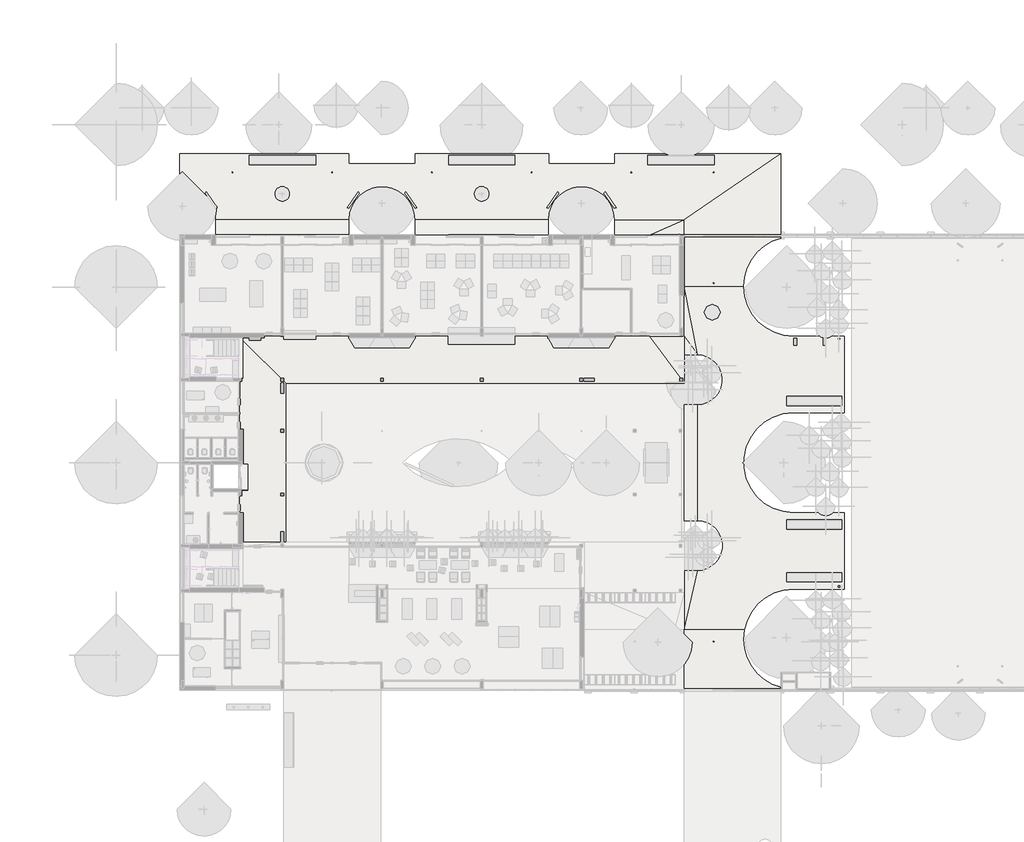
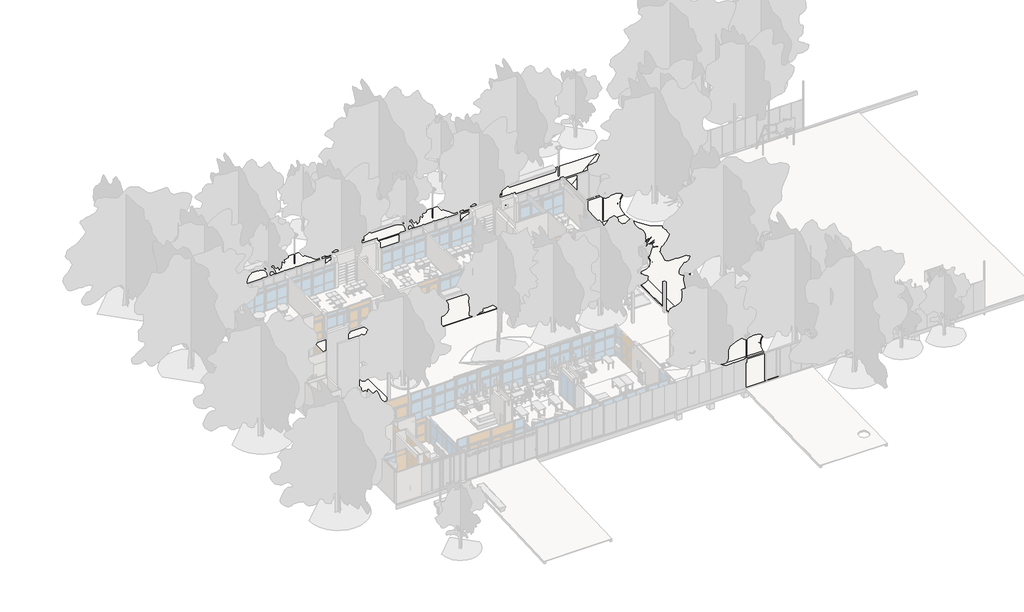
# One storey, part 9 of 22: 4 slabs.
"""IFC4 building model written with IfcOpenShell, lengths in millimetres."""

from ifc_helpers import new_model, si_unit, frame, origin, place, context, project, spatial, polyline, circle_curve, faceted_brep, element, save
from ifc_brep_helpers import plane_surface, revolved_surface, advanced_brep

model = new_model("IFC4")

# Units and contexts
model_context = context("Model", 3, world=origin())
ifc_project = project(units=[si_unit("LENGTHUNIT", "METRE", prefix="MILLI")], contexts=[model_context])

# Site, building, storey
site = spatial("IfcSite", under=ifc_project)
building = spatial("IfcBuilding", under=site)
storey = spatial("IfcBuildingStorey", under=building, Name="PLanta baja", Elevation=0.0)

# Slabs
placement = place(None, origin())
element("IfcSlab", 1, ObjectType="C33 MONOLITICA GRANITICA 30x30 8cm", at=placement, inside=storey, context=model_context, shape_type="Brep", body=[
    faceted_brep([(37998.7173693, 24720.2304035, -80.0), (37998.7173693, 21470.2304035, -80.0), (10438.7173694, 21470.2304035, -80.0), (10438.7173694, 10470.2304035, -80.0), (7478.7173693, 10470.2304035, -80.0), (7478.7173693, 12520.2304035, -80.0), (7478.7173693, 12520.5073266, -80.0), (7168.7173693, 12520.5073266, -80.0), (7168.7173693, 14070.968865, -80.0), (7788.7173694, 14070.968865, -80.0), (7788.7173694, 15870.5073266, -80.0), (7478.7173694, 15870.5073266, -80.0), (7478.7173694, 18273.6271979, -80.0), (7168.7173693, 18273.6271979, -80.0), (7168.7173693, 21820.5073266, -80.0), (7468.7173693, 21820.5073266, -80.0), (7468.7173693, 24610.9158341, -80.0), (8938.7173694, 24610.9158341, -80.0), (8938.7173694, 24720.2304035, -80.0), (14788.7173694, 24720.2304035, -80.0), (14788.7173694, 24610.9594565, -80.0), (19388.7173694, 24610.9594565, -80.0), (19388.7173694, 24720.2304035, -80.0), (28588.7173694, 24720.2304035, -80.0), (28588.7173694, 24610.968865, -80.0), (33188.7173693, 24610.968865, -80.0), (33188.7173693, 24720.2304035, -80.0), (8938.7173694, 24720.2304035, 0.0), (14788.7173694, 24720.2304035, 0.0), (37998.7173693, 24720.2304035, -30.0), (37998.7173693, 21470.2304035, -30.0), (10438.7173694, 21470.2304035, -30.0), (10438.7173694, 10470.2304035, -30.0), (7478.7173693, 10470.2304035, -2.8440367), (7168.7173693, 18272.8887364, 0.0), (7168.7173693, 21819.768865, 0.0), (7168.7173693, 12520.2304035, -50.0), (7168.7173693, 12519.9522511, -19.866824), (7168.7173693, 12519.768865, 0.0), (7168.7173693, 12520.2304035, 0.0), (7168.7173693, 13670.2304035, 0.0), (7168.7173693, 13970.2304035, 0.0), (7168.7173693, 14070.2304035, 0.0), (19388.7173694, 24720.2304035, 0.0), (28588.7173694, 24720.2304035, 0.0), (33188.7173693, 24720.2304035, 0.0), (35593.7173693, 24720.2304035, 0.0), (7468.7173693, 24422.0652659, -2.7522936), (7468.7173693, 21819.7942708, -2.7522936), (7478.7173694, 18272.914989, -2.8440367), (7478.7173694, 15869.7951177, -2.8440367), (7788.7173694, 15869.8213703, -5.6880734), (7788.7173694, 14070.2829088, -5.6880734), (7478.7173693, 12519.7951177, -2.8440367), (33188.7173693, 24610.2397755, -1.0152981), (28588.7173694, 24610.2397755, -1.0152981), (19388.7173694, 24610.2303678, -1.0153849), (14788.7173694, 24610.2303678, -1.0153849), (8938.7173694, 24610.1867491, -1.0157876), (7468.7173693, 24610.1867491, -1.0157876), (19388.7173694, 24610.6825335, -50.0), (14788.7173694, 24610.6825335, -50.0), (7478.7173693, 12520.2304035, -50.0)], [[[0, 1, 2, 3, 4, 5, 6, 7, 8, 9, 10, 11, 12, 13, 14, 15, 16, 17, 18, 19, 20, 21, 22, 23, 24, 25, 26]], [[19, 18, 27, 28]], [[1, 0, 29, 30]], [[2, 1, 30, 31]], [[3, 2, 31, 32]], [[3, 32, 33, 4]], [[14, 13, 34, 35]], [[8, 7, 36, 37, 38, 39, 40, 41, 42]], [[23, 22, 43, 44]], [[0, 26, 45, 46, 29]], [[32, 31, 47, 48, 35, 34, 49, 50, 51, 52, 42, 41, 40, 39, 38, 53, 33]], [[31, 30, 46, 45, 54, 55, 44, 43, 56, 57, 28, 27, 58, 59, 47]], [[30, 29, 46]], [[25, 54, 45, 26]], [[55, 24, 23, 44]], [[54, 25, 24, 55]], [[21, 60, 56, 43, 22]], [[57, 61, 20, 19, 28]], [[56, 60, 21, 20, 61, 57]], [[16, 59, 58, 17]], [[17, 58, 27, 18]], [[48, 15, 14, 35]], [[59, 16, 15, 48, 47]], [[12, 49, 34, 13]], [[52, 9, 8, 42]], [[9, 52, 51, 10]], [[10, 51, 50, 11]], [[49, 12, 11, 50]], [[6, 62, 53, 38, 37, 36, 7]], [[53, 62, 6, 5, 4, 33]]]),
])
element("IfcSlab", 2, ObjectType="Sub base y descalce fundaciones 35cm", at=placement, inside=storey, context=model_context, shape_type="Brep", body=[
    faceted_brep([(10288.7173694, 24720.2304035, -540.0), (16988.7173694, 24720.2304035, -540.0), (16988.7173694, 21820.2304035, -540.0), (10288.7173694, 21820.2304035, -540.0), (16988.7173694, 21820.2304035, -190.0), (16988.7173694, 24720.2304035, -190.0), (13713.7173693, 24720.2304035, -190.0), (13713.7173693, 21820.2304035, -190.0), (10288.7173694, 24720.2304035, -190.0), (10288.7173694, 21820.2304035, -190.0), (13563.7173693, 21820.2304035, -190.0), (13563.7173693, 24720.2304035, -190.0), (13563.7173693, 24720.2304035, -440.0), (13713.7173693, 24720.2304035, -440.0), (13713.7173693, 21820.2304035, -440.0), (13563.7173693, 21820.2304035, -440.0)], [[[0, 1, 2, 3]], [[4, 5, 6, 7]], [[8, 9, 10, 11]], [[1, 0, 8, 11, 12, 13, 6, 5]], [[2, 1, 5, 4]], [[3, 2, 4, 7, 14, 15, 10, 9]], [[0, 3, 9, 8]], [[11, 10, 15, 12]], [[13, 12, 15, 14]], [[7, 6, 13, 14]]]),
    faceted_brep([(30988.7173693, 21820.2304035, -540.0), (30988.7173693, 24720.2304035, -540.0), (37688.7173693, 24720.2304035, -540.0), (37688.7173693, 21820.2304035, -540.0), (30988.7173693, 24720.2304035, -190.0), (30988.7173693, 21820.2304035, -190.0), (34263.7173693, 21820.2304035, -190.0), (34263.7173693, 24720.2304035, -190.0), (37688.7173693, 21820.2304035, -190.0), (37688.7173693, 24720.2304035, -190.0), (34413.7173693, 24720.2304035, -190.0), (34413.7173693, 21820.2304035, -190.0), (34263.7173693, 24720.2304035, -440.0), (34413.7173693, 24720.2304035, -440.0), (34413.7173693, 21820.2304035, -440.0), (34263.7173693, 21820.2304035, -440.0)], [[[0, 1, 2, 3]], [[4, 5, 6, 7]], [[8, 9, 10, 11]], [[1, 0, 5, 4]], [[2, 1, 4, 7, 12, 13, 10, 9]], [[3, 2, 9, 8]], [[0, 3, 8, 11, 14, 15, 6, 5]], [[15, 12, 7, 6]], [[12, 15, 14, 13]], [[13, 14, 11, 10]]]),
    faceted_brep([(24088.7173694, 21820.2304035, -540.0), (24088.7173694, 24720.2304035, -540.0), (30788.7173693, 24720.2304035, -540.0), (30788.7173693, 21820.2304035, -540.0), (24088.7173694, 24720.2304035, -190.0), (24088.7173694, 21820.2304035, -190.0), (27363.7173693, 21820.2304035, -190.0), (27363.7173693, 24720.2304035, -190.0), (30788.7173693, 21820.2304035, -190.0), (30788.7173693, 24720.2304035, -190.0), (27513.7173693, 24720.2304035, -190.0), (27513.7173693, 21820.2304035, -190.0), (27363.7173693, 24720.2304035, -440.0), (27513.7173693, 24720.2304035, -440.0), (27513.7173693, 21820.2304035, -440.0), (27363.7173693, 21820.2304035, -440.0)], [[[0, 1, 2, 3]], [[4, 5, 6, 7]], [[8, 9, 10, 11]], [[1, 0, 5, 4]], [[2, 1, 4, 7, 12, 13, 10, 9]], [[3, 2, 9, 8]], [[0, 3, 8, 11, 14, 15, 6, 5]], [[7, 6, 15, 12]], [[13, 12, 15, 14]], [[11, 10, 13, 14]]]),
    faceted_brep([(17188.7173694, 21820.2304035, -540.0), (17188.7173694, 24720.2304035, -540.0), (23888.7173694, 24720.2304035, -540.0), (23888.7173694, 21820.2304035, -540.0), (17188.7173694, 24720.2304035, -190.0), (17188.7173694, 21820.2304035, -190.0), (20463.7173694, 21820.2304035, -190.0), (20463.7173694, 24720.2304035, -190.0), (23888.7173694, 21820.2304035, -190.0), (23888.7173694, 24720.2304035, -190.0), (20613.7173694, 24720.2304035, -190.0), (20613.7173694, 21820.2304035, -190.0), (20463.7173694, 24720.2304035, -440.0), (20613.7173694, 24720.2304035, -440.0), (20613.7173694, 21820.2304035, -440.0), (20463.7173694, 21820.2304035, -440.0)], [[[0, 1, 2, 3]], [[4, 5, 6, 7]], [[8, 9, 10, 11]], [[1, 0, 5, 4]], [[2, 1, 4, 7, 12, 13, 10, 9]], [[3, 2, 9, 8]], [[0, 3, 8, 11, 14, 15, 6, 5]], [[7, 6, 15, 12]], [[13, 12, 15, 14]], [[11, 10, 13, 14]]]),
    faceted_brep([(7368.7173693, 21820.2304035, -540.0), (7368.7173693, 24720.2304035, -540.0), (10088.7173694, 24720.2304035, -540.0), (10088.7173694, 21820.2304035, -540.0), (7368.7173693, 24720.2304035, -190.0), (7368.7173693, 21820.2304035, -190.0), (10088.7173694, 21820.2304035, -190.0), (10088.7173694, 24720.2304035, -190.0), (7368.7173693, 21820.2304035, -440.0), (10088.7173694, 21820.2304035, -440.0)], [[[0, 1, 2, 3]], [[4, 5, 6, 7]], [[1, 0, 8, 5, 4]], [[2, 1, 4, 7]], [[3, 2, 7, 6, 9]], [[0, 3, 9, 6, 5, 8]]]),
    faceted_brep([(7368.7173694, 18270.2304035, -540.0), (7368.7173694, 21620.2304035, -540.0), (10088.7173694, 21620.2304035, -540.0), (10088.7173694, 18270.2304035, -540.0), (7368.7173694, 21620.2304035, -190.0), (7368.7173694, 18270.2304035, -190.0), (10088.7173694, 18270.2304035, -190.0), (10088.7173694, 21620.2304035, -190.0), (7368.7173694, 18270.2304035, -440.0), (7368.7173694, 21620.2304035, -440.0), (10088.7173694, 21620.2304035, -440.0), (10088.7173694, 18270.2304035, -440.0)], [[[0, 1, 2, 3]], [[4, 5, 6, 7]], [[1, 0, 8, 5, 4, 9]], [[2, 1, 9, 4, 7, 10]], [[3, 2, 10, 7, 6, 11]], [[0, 3, 11, 6, 5, 8]]]),
    faceted_brep([(7368.7173693, 13870.2304035, -540.0), (7368.7173693, 13970.2304035, -540.0), (7368.7173693, 14170.2304035, -540.0), (7368.7173693, 15870.2304035, -540.0), (7368.7173693, 16020.2304035, -540.0), (7368.7173693, 18070.2304035, -540.0), (10088.7173694, 18070.2304035, -540.0), (10088.7173694, 13870.2304035, -540.0), (7368.7173693, 18070.2304035, -190.0), (7368.7173693, 13870.2304035, -190.0), (10088.7173694, 13870.2304035, -190.0), (10088.7173694, 18070.2304035, -190.0), (7368.7173693, 13870.2304035, -440.0), (7368.7173693, 18070.2304035, -440.0), (10088.7173694, 18070.2304035, -440.0), (10088.7173694, 13870.2304035, -440.0)], [[[0, 1, 2, 3, 4, 5, 6, 7]], [[8, 9, 10, 11]], [[5, 4, 3, 2, 1, 0, 12, 9, 8, 13]], [[6, 5, 13, 8, 11, 14]], [[7, 6, 14, 11, 10, 15]], [[0, 7, 15, 10, 9, 12]]]),
    faceted_brep([(7368.7173693, 10320.2304035, -540.0), (7368.7173693, 13670.2304035, -540.0), (10088.7173694, 13670.2304035, -540.0), (10088.7173694, 10320.2304035, -540.0), (7368.7173693, 13670.2304035, -190.0), (7368.7173693, 10320.2304035, -190.0), (10088.7173694, 10320.2304035, -190.0), (10088.7173694, 13670.2304035, -190.0), (7368.7173693, 10320.2304035, -410.0), (7368.7173693, 13670.2304035, -440.0), (10088.7173694, 13670.2304035, -440.0), (10088.7173694, 10320.2304035, -410.0)], [[[0, 1, 2, 3]], [[4, 5, 6, 7]], [[1, 0, 8, 5, 4, 9]], [[2, 1, 9, 4, 7, 10]], [[3, 2, 10, 7, 6, 11]], [[0, 3, 11, 6, 5, 8]]]),
    faceted_brep([(37888.7173693, 21620.2241535, -540.0), (37888.7173693, 24720.3804035, -540.0), (37998.7173693, 24720.3804035, -540.0), (37998.7173693, 21470.2304035, -540.0), (10438.7173693, 21470.2304035, -540.0), (10438.7173693, 10320.2304035, -540.0), (10288.7173693, 10320.2304035, -540.0), (10288.7173693, 21620.2241535, -540.0), (37888.7173693, 24720.3804035, -190.0), (37888.7173693, 21620.2241535, -190.0), (34413.7173693, 21620.2241535, -190.0), (34263.7173693, 21620.2241535, -190.0), (27513.7173693, 21620.2241535, -190.0), (27363.7173693, 21620.2241535, -190.0), (20613.7173694, 21620.2241535, -190.0), (20463.7173694, 21620.2241535, -190.0), (13713.7173693, 21620.2241535, -190.0), (13563.7173693, 21620.2241535, -190.0), (10288.7173693, 21620.2241535, -190.0), (10288.7173693, 10320.2304035, -190.0), (10438.7173693, 10320.2304035, -190.0), (10438.7173693, 21470.2304035, -190.0), (37998.7173693, 21470.2304035, -190.0), (37998.7173693, 24720.3804035, -190.0), (10438.7173693, 10320.2304035, -510.0)], [[[0, 1, 2, 3, 4, 5, 6, 7]], [[8, 9, 10, 11, 12, 13, 14, 15, 16, 17, 18, 19, 20, 21, 22, 23]], [[1, 0, 9, 8]], [[2, 1, 8, 23]], [[3, 2, 23, 22]], [[4, 3, 22, 21]], [[5, 4, 21, 20, 24]], [[7, 6, 19, 18]], [[0, 7, 18, 17, 16, 15, 14, 13, 12, 11, 10, 9]], [[6, 5, 24, 20, 19]]]),
])
element("IfcSlab", 3, ObjectType="LOSA-INT-HA-11cm-PET", at=placement, inside=storey, context=model_context, shape_type="Brep", body=[
    faceted_brep([(10088.7173694, 24720.2304035, -190.0), (10088.7173694, 21820.2304035, -190.0), (7368.7173693, 21820.2304035, -190.0), (7368.7173693, 24720.2304035, -190.0), (10088.7173694, 24720.2304035, -80.0), (8514.6864031, 24720.2304035, -80.0), (7907.6811618, 24720.2304035, -80.0), (7368.7173693, 24720.2304035, -80.0), (7368.7173693, 21820.2304035, -80.0), (10088.7173694, 21820.2304035, -80.0)], [[[0, 1, 2, 3]], [[4, 5, 6, 7, 8, 9]], [[1, 0, 4, 9]], [[2, 1, 9, 8]], [[3, 2, 8, 7]], [[0, 3, 7, 6, 5, 4]]]),
    faceted_brep([(10088.7173694, 21620.2304035, -190.0), (10088.7173694, 18270.2304035, -190.0), (7368.7173694, 18270.2304035, -190.0), (7368.7173694, 21620.2304035, -190.0), (10088.7173694, 21620.2304035, -80.0), (7368.7173694, 21620.2304035, -80.0), (7368.7173694, 19220.2304035, -80.0), (7368.7173694, 18270.2304035, -80.0), (10088.7173694, 18270.2304035, -80.0)], [[[0, 1, 2, 3]], [[4, 5, 6, 7, 8]], [[1, 0, 4, 8]], [[2, 1, 8, 7]], [[3, 2, 7, 6, 5]], [[0, 3, 5, 4]]]),
    faceted_brep([(10088.7173694, 18070.2304035, -190.0), (10088.7173694, 13870.2304035, -190.0), (7368.7173694, 13870.2304035, -190.0), (7368.7173694, 18070.2304035, -190.0), (10088.7173694, 18070.2304035, -80.0), (7368.7173694, 18070.2304035, -80.0), (7368.7173694, 16070.2304035, -80.0), (7368.7173694, 15870.2304035, -80.0), (7368.7173694, 14170.2304035, -80.0), (7368.7173694, 13970.2304035, -80.0), (7368.7173694, 13870.2304035, -80.0), (10088.7173694, 13870.2304035, -80.0)], [[[0, 1, 2, 3]], [[4, 5, 6, 7, 8, 9, 10, 11]], [[1, 0, 4, 11]], [[2, 1, 11, 10]], [[3, 2, 10, 9, 8, 7, 6, 5]], [[0, 3, 5, 4]]]),
    faceted_brep([(10088.7173694, 13670.2304035, -190.0), (10088.7173694, 10320.2304035, -190.0), (7368.7173694, 10320.2304035, -190.0), (7368.7173694, 13670.2304035, -190.0), (10088.7173694, 13670.2304035, -80.0), (7368.7173694, 13670.2304035, -80.0), (7368.7173694, 10320.2304035, -80.0), (10088.7173694, 10320.2304035, -80.0)], [[[0, 1, 2, 3]], [[4, 5, 6, 7]], [[1, 0, 4, 7]], [[2, 1, 7, 6]], [[3, 2, 6, 5]], [[0, 3, 5, 4]]]),
    faceted_brep([(13563.7173693, 24720.2304035, -190.0), (13563.7173693, 21820.2304035, -190.0), (10288.7173694, 21820.2304035, -190.0), (10288.7173694, 24720.2304035, -190.0), (13563.7173693, 24720.2304035, -80.0), (10288.7173694, 24720.2304035, -80.0), (10288.7173694, 21820.2304035, -80.0), (13563.7173693, 21820.2304035, -80.0)], [[[0, 1, 2, 3]], [[4, 5, 6, 7]], [[3, 2, 6, 5]], [[0, 3, 5, 4]], [[1, 0, 4, 7]], [[2, 1, 7, 6]]]),
    faceted_brep([(13713.7173693, 21820.2304035, -190.0), (13713.7173693, 24720.2304035, -190.0), (16988.7173694, 24720.2304035, -190.0), (16988.7173694, 21820.2304035, -190.0), (13713.7173693, 21820.2304035, -80.0), (16988.7173694, 21820.2304035, -80.0), (16988.7173694, 24720.2304035, -80.0), (14788.7173694, 24720.2304035, -80.0), (13713.7173693, 24720.2304035, -80.0)], [[[0, 1, 2, 3]], [[4, 5, 6, 7, 8]], [[3, 2, 6, 5]], [[0, 3, 5, 4]], [[1, 0, 4, 8]], [[2, 1, 8, 7, 6]]]),
    faceted_brep([(20463.7173694, 24720.2304035, -190.0), (20463.7173694, 21820.2304035, -190.0), (17188.7173694, 21820.2304035, -190.0), (17188.7173694, 24720.2304035, -190.0), (20463.7173694, 24720.2304035, -80.0), (19388.7173694, 24720.2304035, -80.0), (17188.7173694, 24720.2304035, -80.0), (17188.7173694, 21820.2304035, -80.0), (20463.7173694, 21820.2304035, -80.0)], [[[0, 1, 2, 3]], [[4, 5, 6, 7, 8]], [[3, 2, 7, 6]], [[0, 3, 6, 5, 4]], [[1, 0, 4, 8]], [[2, 1, 8, 7]]]),
    faceted_brep([(20613.7173694, 21820.2304035, -190.0), (20613.7173694, 24720.2304035, -190.0), (23888.7173694, 24720.2304035, -190.0), (23888.7173694, 21820.2304035, -190.0), (20613.7173694, 21820.2304035, -80.0), (23888.7173694, 21820.2304035, -80.0), (23888.7173694, 24720.2304035, -80.0), (20613.7173694, 24720.2304035, -80.0)], [[[0, 1, 2, 3]], [[4, 5, 6, 7]], [[3, 2, 6, 5]], [[0, 3, 5, 4]], [[1, 0, 4, 7]], [[2, 1, 7, 6]]]),
    faceted_brep([(27363.7173693, 24720.2304035, -190.0), (27363.7173693, 21820.2304035, -190.0), (24088.7173694, 21820.2304035, -190.0), (24088.7173694, 24720.2304035, -190.0), (27363.7173693, 24720.2304035, -80.0), (24088.7173694, 24720.2304035, -80.0), (24088.7173694, 21820.2304035, -80.0), (27363.7173693, 21820.2304035, -80.0)], [[[0, 1, 2, 3]], [[4, 5, 6, 7]], [[3, 2, 6, 5]], [[0, 3, 5, 4]], [[1, 0, 4, 7]], [[2, 1, 7, 6]]]),
    faceted_brep([(27513.7173693, 21820.2304035, -190.0), (27513.7173693, 24720.2304035, -190.0), (30788.7173693, 24720.2304035, -190.0), (30788.7173693, 21820.2304035, -190.0), (27513.7173693, 21820.2304035, -80.0), (30788.7173693, 21820.2304035, -80.0), (30788.7173693, 24720.2304035, -80.0), (28588.7173694, 24720.2304035, -80.0), (27513.7173693, 24720.2304035, -80.0)], [[[0, 1, 2, 3]], [[4, 5, 6, 7, 8]], [[3, 2, 6, 5]], [[0, 3, 5, 4]], [[1, 0, 4, 8]], [[2, 1, 8, 7, 6]]]),
    faceted_brep([(34263.7173693, 24720.2304035, -190.0), (34263.7173693, 21820.2304035, -190.0), (30988.7173693, 21820.2304035, -190.0), (30988.7173693, 24720.2304035, -190.0), (34263.7173693, 24720.2304035, -80.0), (33188.7173693, 24720.2304035, -80.0), (30988.7173693, 24720.2304035, -80.0), (30988.7173693, 21820.2304035, -80.0), (34263.7173693, 21820.2304035, -80.0)], [[[0, 1, 2, 3]], [[4, 5, 6, 7, 8]], [[3, 2, 7, 6]], [[0, 3, 6, 5, 4]], [[1, 0, 4, 8]], [[2, 1, 8, 7]]]),
    faceted_brep([(34413.7173693, 21820.2304035, -190.0), (34413.7173693, 24720.2304035, -190.0), (37688.7173693, 24720.2304035, -190.0), (37688.7173693, 21820.2304035, -190.0), (34413.7173693, 21820.2304035, -80.0), (37688.7173693, 21820.2304035, -80.0), (37688.7173693, 24720.2304035, -80.0), (34413.7173693, 24720.2304035, -80.0)], [[[0, 1, 2, 3]], [[4, 5, 6, 7]], [[3, 2, 6, 5]], [[0, 3, 5, 4]], [[1, 0, 4, 7]], [[2, 1, 7, 6]]]),
    faceted_brep([(37998.7173693, 24720.3804035, -190.0), (37998.7173693, 23585.2304035, -190.0), (37998.7173693, 21470.2304035, -190.0), (10438.7173693, 21470.2304035, -190.0), (10438.7173693, 10320.2304035, -190.0), (10288.7173693, 10320.2304035, -190.0), (10288.7173693, 21620.2304035, -190.0), (37888.7173693, 21620.2304035, -190.0), (37888.7173693, 23585.2304035, -190.0), (37888.7173693, 24720.3804035, -190.0), (37998.7173693, 24720.3804035, -80.0), (37888.7173693, 24720.3804035, -80.0), (37888.7173693, 21820.2304035, -80.0), (37888.7173693, 21620.2304035, -80.0), (10288.7173693, 21620.2304035, -80.0), (10288.7173693, 10320.2304035, -80.0), (10438.7173693, 10320.2304035, -80.0), (10438.7173693, 10429.8933561, -80.0), (10438.7173693, 10470.2304035, -80.0), (10438.7173693, 21470.2304035, -80.0), (37998.7173693, 21470.2304035, -80.0), (37998.7173693, 24720.3804035, -160.0), (37998.7173693, 21470.2304035, -90.0), (10438.7173693, 21470.2304035, -90.0), (37888.7173693, 24720.3804035, -160.0)], [[[0, 1, 2, 3, 4, 5, 6, 7, 8, 9]], [[10, 11, 12, 13, 14, 15, 16, 17, 18, 19, 20]], [[2, 1, 0, 21, 10, 20, 22]], [[3, 2, 22, 20, 19, 23]], [[4, 3, 23, 19, 18, 17, 16]], [[5, 4, 16, 15]], [[6, 5, 15, 14]], [[7, 6, 14, 13]], [[9, 8, 7, 13, 12, 11, 24]], [[0, 9, 24, 11, 10, 21]]]),
])
element("IfcSlab", 4, ObjectType="P3 Green Block - 10 cm", at=placement, inside=storey, context=model_context, shape_type="AdvancedBrep", body=[
    advanced_brep(
    [(37998.7173693, 23435.2304035, -150.0), (37998.7173693, 31730.2304035, -150.0), (33188.7173693, 31730.2304035, -150.0), (33188.7173693, 32780.2304035, -150.0), (28588.7173693, 32780.2304035, -150.0), (28588.7173693, 31730.2304035, -150.0), (19388.7173693, 31730.2304035, -150.0), (19388.7173693, 32780.2304035, -150.0), (14788.7173693, 32780.2304035, -150.0), (14788.7173693, 31730.2304035, -150.0), (5588.7173693, 31730.2304035, -150.0), (5588.7173693, 32780.2304035, -150.0), (3288.7173693, 35080.2304035, -150.0), (3078.7173694, 35080.2304035, -150.0), (3078.7173694, 37370.2304035, -150.0), (14788.7173693, 37370.2304035, -150.0), (14788.7173693, 36669.2072726, -150.0), (19388.7173693, 36669.2072726, -150.0), (19388.7173693, 37370.2304035, -150.0), (28646.6750048, 37370.2304035, -150.0), (28646.6750048, 36669.2072726, -150.0), (33188.7173693, 36669.2072726, -150.0), (33188.7173693, 37370.2304035, -150.0), (44688.7173693, 37370.2304035, -150.0), (44688.7173693, 31787.8764884, -150.0), (38006.0173693, 31787.8764884, -150.0), (38006.0173693, 31587.8764884, -150.0), (44688.7173693, 31587.8764884, -150.0), (44688.7173693, 31510.9771697, -150.0), (45550.0599516, 24720.2304035, -150.0), (49097.2173693, 24720.2304035, -150.0), (49097.2173693, 19420.2304035, -150.0), (45550.0599516, 19420.2304035, -150.0), (45550.0599516, 12520.2304035, -150.0), (49097.2173693, 12520.2304035, -150.0), (49097.2173693, 7220.2297821, -150.0), (45550.0671822, 7220.2297821, -150.0), (44688.7173693, 429.4848801, -150.0), (44688.7173693, 360.2304035, -150.0), (37998.4930104, 360.2304035, -150.0), (37998.4930104, 8355.2304035, -150.0), (37998.4930104, 8505.2304035, -150.0), (37998.7173693, 8505.2304035, -150.0), (38943.1270902, 8505.2304035, -150.0), (38943.1270902, 11955.2304035, -150.0), (37998.7173693, 11955.2304035, -150.0), (37998.4930104, 11955.2304035, -150.0), (37998.4930104, 12105.2304035, -150.0), (37998.4930104, 19845.2304035, -150.0), (37998.4930104, 19995.2304035, -150.0), (37998.7173693, 19995.2304035, -150.0), (38943.1270902, 19995.2304035, -150.0), (38943.1270902, 23435.2304035, -150.0), (23488.7173693, 34580.2304035, -150.0), (24488.7173693, 34580.2304035, -150.0), (9688.7173693, 34580.2304035, -150.0), (10688.7173693, 34580.2304035, -150.0), (37998.7173693, 23435.2304035, -52.9658991), (37998.7173693, 23435.2304035, -30.0), (37998.7173693, 24720.2304035, -30.0), (37998.7173693, 28170.2304035, -50.0), (37998.7173693, 31730.2304035, -50.0), (33188.7173693, 37370.2304035, -55.0352015), (33188.7173693, 37370.2304035, -50.0), (44688.7173693, 37370.2304035, -50.0), (44688.7173693, 37370.2304035, -54.784006), (49097.2173693, 24720.2304035, -50.6363303), (49097.2173693, 24720.2304035, -50.0), (49097.2173693, 19420.2304035, -50.0), (49097.2173693, 19420.2304035, -50.5907635), (37998.4930104, 8505.2304035, -50.0), (37998.4930104, 8505.2304035, -52.877283), (37998.4930104, 8505.2304035, -90.0), (37998.4930104, 360.2304035, -90.0), (37998.4930104, 360.2304035, -54.8090399), (37998.4930104, 360.2304035, -50.0), (37998.4930104, 4410.2051786, -50.0), (37998.4930104, 11955.2304035, -90.006257), (37998.4930104, 11955.2304035, -30.0), (37998.4930104, 19995.2304035, -30.0), (37998.4930104, 19995.2304035, -90.0065643), (44688.7173693, 31787.8764884, -50.0), (44688.7173693, 31787.8764884, -53.3230912), (44688.7173693, 31510.9771697, -50.0), (44688.7173693, 31510.9771697, -53.1824003), (44688.7173693, 31587.8764884, -53.2214724), (44688.7173693, 31587.8764884, -50.0), (49097.2173693, 12520.2304035, -50.5), (49097.2173693, 12520.2304035, -50.0), (49097.2173693, 7220.2297821, -50.0), (49097.2173693, 7220.2297821, -50.5), (38943.1270902, 8505.2304035, -50.0), (38943.1270902, 11955.2304035, -50.0), (38943.1270902, 19995.2304035, -50.0), (38943.1270902, 23435.2304035, -50.0), (35662.8306255, 31730.2304035, -30.0), (33188.7173693, 31730.2304035, -30.0), (33188.7173693, 31730.2304035, -55.0), (33188.7173693, 32780.2304035, -50.0), (28588.7173693, 32780.2304035, -50.0), (28588.7173693, 31730.2304035, -30.0), (28588.7173693, 31730.2304035, -55.0), (19388.7173693, 31730.2304035, -30.0), (19388.7173693, 31730.2304035, -55.0), (19388.7173693, 32780.2304035, -50.0), (14788.7173693, 32780.2304035, -50.0), (14788.7173693, 31730.2304035, -30.0), (14788.7173693, 31730.2304035, -55.1391006), (5588.7173693, 31730.2304035, -30.0), (5588.7173693, 31730.2304035, -55.0), (5588.7173693, 32780.2304035, -50.0), (3078.7173694, 37370.2304035, -55.0), (3078.7173694, 37370.2304035, -50.0), (14788.7173693, 37370.2304035, -50.0), (14788.7173693, 37370.2304035, -55.0), (14788.7173693, 36669.2072726, -50.0), (14788.7173693, 36669.2072726, -55.0), (19388.7173693, 36669.2072726, -50.0), (19388.7173693, 36669.2072726, -55.0), (19388.7173693, 37370.2304035, -50.0), (19388.7173693, 37370.2304035, -55.0), (28646.6750048, 37370.2304035, -50.0), (28646.6750048, 37370.2304035, -55.0485232), (28646.6750048, 36669.2072726, -50.0), (28646.6750048, 36669.2072726, -55.0), (33188.7173693, 36669.2072726, -50.0), (33188.7173693, 36669.2072726, -55.0), (3288.7173693, 35080.2304035, -50.0), (3078.7173694, 35080.2304035, -50.0), (3078.7173694, 35080.2304035, -55.0), (45550.0599516, 19420.2304035, -50.0), (45550.0599516, 12520.2304035, -50.0), (45550.0671822, 7220.2297821, -50.0), (45550.0599516, 24720.2304035, -50.0), (44688.7173693, 429.4848801, -54.7925865), (44688.7173693, 429.4848801, -50.0), (44688.7173693, 360.2304035, -50.0), (44688.7173693, 360.2304035, -54.858179), (42100.0599517, 28170.2216075, -50.0), (42159.9450876, 4410.2080499, -50.0), (23488.7173693, 34580.2304035, -50.0), (24488.7173693, 34580.2304035, -50.0), (9688.7173693, 34580.2304035, -50.0), (10688.7173693, 34580.2304035, -50.0), (38006.0173693, 31587.8764884, -50.0), (38006.0173693, 31787.8764884, -50.0), (37998.7173693, 32780.2304035, -50.0)],
    [
        (0, 1),
        (1, 2),
        (2, 3),
        (3, 4, circle_curve(frame((30888.7173693, 32780.2304035, -150.0), z_axis=(0.0, 0.0, 1.0), x_axis=(1.0, 0.0, 0.0)), 2300.0)),
        (4, 5),
        (5, 6),
        (6, 7),
        (7, 8, circle_curve(frame((17088.7173693, 32780.2304035, -150.0), z_axis=(0.0, 0.0, 1.0), x_axis=(1.0, 0.0, 0.0)), 2300.0)),
        (8, 9),
        (9, 10),
        (10, 11),
        (11, 12, circle_curve(frame((3288.7173693, 32780.2304035, -150.0), z_axis=(0.0, 0.0, 1.0), x_axis=(1.0, 0.0, 0.0)), 2300.0)),
        (12, 13),
        (13, 14),
        (14, 15),
        (15, 16),
        (16, 17),
        (17, 18),
        (18, 19),
        (19, 20),
        (20, 21),
        (21, 22),
        (22, 23),
        (23, 24),
        (24, 25),
        (25, 26),
        (26, 27),
        (27, 28),
        (28, 29, circle_curve(frame((45550.0599516, 28170.2304035, -150.0), z_axis=(0.0, 0.0, 1.0), x_axis=(1.0, 0.0, 0.0)), 3450.0)),
        (29, 30),
        (30, 31),
        (31, 32),
        (32, 33, circle_curve(frame((45550.0599516, 15970.2304035, -150.0), z_axis=(0.0, 0.0, 1.0), x_axis=(1.0, 0.0, 0.0)), 3450.0)),
        (33, 34),
        (34, 35),
        (35, 36),
        (36, 37, circle_curve(frame((45550.0671822, 3770.2297821, -150.0), z_axis=(0.0, 0.0, 1.0), x_axis=(1.0, 0.0, 0.0)), 3450.0)),
        (37, 38),
        (38, 39),
        (39, 40),
        (40, 41),
        (41, 42),
        (42, 43),
        (43, 44, circle_curve(frame((38943.1270902, 10230.2304035, -150.0), z_axis=(0.0, 0.0, 1.0), x_axis=(1.0, 0.0, 0.0)), 1725.0)),
        (44, 45),
        (45, 46),
        (46, 47),
        (47, 48),
        (48, 49),
        (49, 50),
        (50, 51),
        (51, 52, circle_curve(frame((38943.1270902, 21715.2304035, -150.0), z_axis=(0.0, 0.0, 1.0), x_axis=(1.0, 0.0, 0.0)), 1720.0)),
        (52, 0),
        (53, 54, circle_curve(frame((23988.7173693, 34580.2304035, -150.0), z_axis=(0.0, 0.0, 1.0), x_axis=(1.0, 0.0, 0.0)), 500.0)),
        (54, 53, circle_curve(frame((23988.7173693, 34580.2304035, -150.0), z_axis=(0.0, 0.0, 1.0), x_axis=(1.0, 0.0, 0.0)), 500.0)),
        (55, 56, circle_curve(frame((10188.7173693, 34580.2304035, -150.0), z_axis=(0.0, 0.0, 1.0), x_axis=(1.0, 0.0, 0.0)), 500.0)),
        (56, 55, circle_curve(frame((10188.7173693, 34580.2304035, -150.0), z_axis=(0.0, 0.0, 1.0), x_axis=(1.0, 0.0, 0.0)), 500.0)),
        (0, 57),
        (57, 58),
        (58, 59),
        (59, 60),
        (60, 61),
        (61, 1),
        (22, 62),
        (62, 63),
        (63, 64),
        (64, 65),
        (65, 23),
        (30, 66),
        (66, 67),
        (67, 68),
        (68, 69),
        (69, 31),
        (70, 71),
        (71, 72),
        (72, 41),
        (39, 73),
        (73, 74),
        (74, 75),
        (75, 76),
        (76, 70),
        (46, 77),
        (77, 78),
        (78, 79),
        (79, 80),
        (80, 49),
        (64, 81),
        (81, 82),
        (82, 24),
        (83, 84),
        (84, 28),
        (27, 85),
        (85, 86),
        (86, 83),
        (34, 87),
        (87, 88),
        (88, 89),
        (89, 90),
        (90, 35),
        (70, 91),
        (91, 43),
        (91, 92, circle_curve(frame((38943.1270902, 10230.2304035, -50.0), z_axis=(0.0, 0.0, 1.0), x_axis=(1.0, 0.0, 0.0)), 1725.0)),
        (92, 44),
        (92, 78),
        (79, 93),
        (93, 51),
        (93, 94, circle_curve(frame((38943.1270902, 21715.2304035, -50.0), z_axis=(0.0, 0.0, 1.0), x_axis=(1.0, 0.0, 0.0)), 1720.0)),
        (94, 52),
        (94, 58),
        (61, 95),
        (95, 96),
        (96, 97),
        (97, 2),
        (96, 98),
        (98, 3),
        (98, 99, circle_curve(frame((30888.7173693, 32780.2304035, -50.0), z_axis=(0.0, 0.0, 1.0), x_axis=(1.0, 0.0, 0.0)), 2300.0)),
        (99, 4),
        (99, 100),
        (100, 101),
        (101, 5),
        (100, 102),
        (102, 103),
        (103, 6),
        (102, 104),
        (104, 7),
        (104, 105, circle_curve(frame((17088.7173693, 32780.2304035, -50.0), z_axis=(0.0, 0.0, 1.0), x_axis=(1.0, 0.0, 0.0)), 2300.0)),
        (105, 8),
        (105, 106),
        (106, 107),
        (107, 9),
        (106, 108),
        (108, 109),
        (109, 10),
        (108, 110),
        (110, 11),
        (14, 111),
        (111, 112),
        (112, 113),
        (113, 114),
        (114, 15),
        (113, 115),
        (115, 116),
        (116, 16),
        (115, 117),
        (117, 118),
        (118, 17),
        (117, 119),
        (119, 120),
        (120, 18),
        (119, 121),
        (121, 122),
        (122, 19),
        (121, 123),
        (123, 124),
        (124, 20),
        (123, 125),
        (125, 126),
        (126, 21),
        (125, 63),
        (110, 127, circle_curve(frame((3288.7173693, 32780.2304035, -50.0), z_axis=(0.0, 0.0, 1.0), x_axis=(1.0, 0.0, 0.0)), 2300.0)),
        (127, 12),
        (127, 128),
        (128, 129),
        (129, 13),
        (128, 112),
        (68, 130),
        (130, 32),
        (33, 131),
        (131, 88),
        (89, 132),
        (132, 36),
        (29, 133),
        (133, 67),
        (130, 131, circle_curve(frame((45550.0599516, 15970.2304035, -50.0), z_axis=(0.0, 0.0, 1.0), x_axis=(1.0, 0.0, 0.0)), 3450.0)),
        (37, 134),
        (134, 135),
        (135, 136),
        (136, 137),
        (137, 38),
        (83, 138, circle_curve(frame((45550.0599516, 28170.2304035, -50.0), z_axis=(0.0, 0.0, 1.0), x_axis=(1.0, 0.0, 0.0)), 3450.0)),
        (138, 133, circle_curve(frame((45550.0599516, 28170.2304035, -50.0), z_axis=(0.0, 0.0, 1.0), x_axis=(1.0, 0.0, 0.0)), 3450.0)),
        (132, 139, circle_curve(frame((45550.0671822, 3770.2297821, -50.0), z_axis=(0.0, 0.0, 1.0), x_axis=(1.0, 0.0, 0.0)), 3450.0)),
        (139, 135, circle_curve(frame((45550.0671822, 3770.2297821, -50.0), z_axis=(0.0, 0.0, 1.0), x_axis=(1.0, 0.0, 0.0)), 3450.0)),
        (53, 140),
        (140, 141, circle_curve(frame((23988.7173693, 34580.2304035, -50.0), z_axis=(0.0, 0.0, 1.0), x_axis=(1.0, 0.0, 0.0)), 500.0)),
        (141, 54),
        (141, 140, circle_curve(frame((23988.7173693, 34580.2304035, -50.0), z_axis=(0.0, 0.0, 1.0), x_axis=(1.0, 0.0, 0.0)), 500.0)),
        (55, 142),
        (142, 143, circle_curve(frame((10188.7173693, 34580.2304035, -50.0), z_axis=(0.0, 0.0, 1.0), x_axis=(1.0, 0.0, 0.0)), 500.0)),
        (143, 56),
        (143, 142, circle_curve(frame((10188.7173693, 34580.2304035, -50.0), z_axis=(0.0, 0.0, 1.0), x_axis=(1.0, 0.0, 0.0)), 500.0)),
        (99, 104),
        (105, 110),
        (94, 59),
        (60, 138),
        (86, 144),
        (144, 145),
        (145, 81),
        (64, 146),
        (146, 61),
        (98, 146),
        (139, 76),
        (75, 136),
        (60, 94),
        (93, 92),
        (91, 76),
        (95, 146),
        (144, 26),
        (25, 145),
    ],
    [
        plane_surface(frame((37998.4930104, 210.2304035, -150.0), z_axis=(0.0, 0.0, -1.0), x_axis=(-1.0, 0.0, 0.0))),
        plane_surface(frame((37998.7173693, 23435.2304035, -150.0), z_axis=(-1.0, 0.0, 0.0), x_axis=(0.0, 0.0, 1.0))),
        plane_surface(frame((33188.7173693, 37370.2304035, -150.0), z_axis=(0.0, 1.0, 0.0), x_axis=(0.0, 0.0, 1.0))),
        plane_surface(frame((49097.2173693, 24720.2304035, -150.0), z_axis=(1.0, 0.0, 0.0), x_axis=(0.0, 0.0, 1.0))),
        plane_surface(frame((37998.4930104, 210.2304035, -150.0), z_axis=(-1.0, 0.0, 0.0), x_axis=(0.0, 0.0, 1.0))),
        plane_surface(frame((37998.4930104, 11955.2304035, -150.0), z_axis=(-1.0, 0.0, 0.0), x_axis=(0.0, 0.0, 1.0))),
        plane_surface(frame((44688.7173693, 37370.2304035, -150.0), z_axis=(1.0, 0.0, 0.0), x_axis=(0.0, 0.0, 1.0))),
        plane_surface(frame((49097.2173693, 12520.2304035, -150.0), z_axis=(1.0, 0.0, 0.0), x_axis=(0.0, 0.0, 1.0))),
        plane_surface(frame((37998.4930104, 8505.2304035, -150.0), z_axis=(0.0, 1.0, 0.0), x_axis=(0.0, 0.0, 1.0))),
        revolved_surface(polyline([(40668.1270902, 10230.2304035, -50.0), (40668.1270902, 10230.2304035, -150.0)]), (38943.1270902, 10230.2304035, -50.0), (0.0, 0.0, 1.0)),
        plane_surface(frame((38943.1270902, 11955.2304035, -150.0), z_axis=(0.0, -1.0, 0.0), x_axis=(0.0, 0.0, 1.0))),
        plane_surface(frame((37998.4930104, 19995.2304035, -150.0), z_axis=(0.0, 1.0, 0.0), x_axis=(0.0, 0.0, 1.0))),
        revolved_surface(polyline([(40663.1270902, 21715.2304035, -50.0), (40663.1270902, 21715.2304035, -150.0)]), (38943.1270902, 21715.2304035, -50.0), (0.0, 0.0, 1.0)),
        plane_surface(frame((38943.1270902, 23435.2304035, -150.0), z_axis=(0.0, -1.0, 0.0), x_axis=(0.0, 0.0, 1.0))),
        plane_surface(frame((37998.7173693, 31730.2304035, -150.0), z_axis=(0.0, -1.0, 0.0), x_axis=(0.0, 0.0, 1.0))),
        plane_surface(frame((33188.7173693, 31730.2304035, -150.0), z_axis=(-1.0, -6.2455650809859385e-12, 0.0), x_axis=(0.0, 0.0, 1.0))),
        revolved_surface(polyline([(33188.7173693, 32780.2304035, -50.0), (33188.7173693, 32780.2304035, -150.0)]), (30888.7173693, 32780.2304035, -50.0), (0.0, 0.0, 1.0)),
        plane_surface(frame((28588.7173693, 32780.2304035, -150.0), z_axis=(1.0, 0.0, 0.0), x_axis=(0.0, 0.0, 1.0))),
        plane_surface(frame((28588.7173693, 31730.2304035, -150.0), z_axis=(0.0, -1.0, 0.0), x_axis=(0.0, 0.0, 1.0))),
        plane_surface(frame((19388.7173693, 31730.2304035, -150.0), z_axis=(-1.0, -6.233189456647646e-12, 0.0), x_axis=(0.0, 0.0, 1.0))),
        revolved_surface(polyline([(19388.7173693, 32780.2304035, -50.0), (19388.7173693, 32780.2304035, -150.0)]), (17088.7173693, 32780.2304035, -50.0), (0.0, 0.0, 1.0)),
        plane_surface(frame((14788.7173693, 32780.2304035, -150.0), z_axis=(1.0, 0.0, 0.0), x_axis=(0.0, 0.0, 1.0))),
        plane_surface(frame((14788.7173693, 31730.2304035, -150.0), z_axis=(0.0, -1.0, 0.0), x_axis=(0.0, 0.0, 1.0))),
        plane_surface(frame((5588.7173693, 31730.2304035, -150.0), z_axis=(-1.0, 0.0, 0.0), x_axis=(0.0, 0.0, 1.0))),
        plane_surface(frame((3078.7173694, 37370.2304035, -150.0), z_axis=(0.0, 1.0, 0.0), x_axis=(0.0, 0.0, 1.0))),
        plane_surface(frame((14788.7173693, 37370.2304035, -150.0), z_axis=(1.0, 0.0, 0.0), x_axis=(0.0, 0.0, 1.0))),
        plane_surface(frame((14788.7173693, 36669.2072726, -150.0), z_axis=(0.0, 1.0, 0.0), x_axis=(0.0, 0.0, 1.0))),
        plane_surface(frame((19388.7173693, 36669.2072726, -150.0), z_axis=(-1.0, 0.0, 0.0), x_axis=(0.0, 0.0, 1.0))),
        plane_surface(frame((19388.7173693, 37370.2304035, -150.0), z_axis=(0.0, 1.0, 0.0), x_axis=(0.0, 0.0, 1.0))),
        plane_surface(frame((28646.6750048, 37370.2304035, -150.0), z_axis=(1.0, 0.0, 0.0), x_axis=(0.0, 0.0, 1.0))),
        plane_surface(frame((28646.6750048, 36669.2072726, -150.0), z_axis=(0.0, 1.0, 0.0), x_axis=(0.0, 0.0, 1.0))),
        plane_surface(frame((33188.7173693, 36669.2072726, -150.0), z_axis=(-1.0, 0.0, 0.0), x_axis=(0.0, 0.0, 1.0))),
        revolved_surface(polyline([(5588.7173693, 32780.2304035, -50.0), (5588.7173693, 32780.2304035, -150.0)]), (3288.7173693, 32780.2304035, -50.0), (0.0, 0.0, 1.0)),
        plane_surface(frame((3288.7173693, 35080.2304035, -150.0), z_axis=(0.0, -1.0, 0.0), x_axis=(0.0, 0.0, 1.0))),
        plane_surface(frame((3078.7173694, 35080.2304035, -150.0), z_axis=(-1.0, 0.0, 0.0), x_axis=(0.0, 0.0, 1.0))),
        plane_surface(frame((49097.2173693, 19420.2304035, -150.0), z_axis=(0.0, -1.0, 0.0), x_axis=(0.0, 0.0, 1.0))),
        plane_surface(frame((45550.0599516, 12520.2304035, -150.0), z_axis=(0.0, 1.0, 0.0), x_axis=(0.0, 0.0, 1.0))),
        plane_surface(frame((49097.2173693, 7220.2297821, -150.0), z_axis=(0.0, -1.0, 0.0), x_axis=(0.0, 0.0, 1.0))),
        plane_surface(frame((45550.0599516, 24720.2304035, -150.0), z_axis=(0.0, 1.0, 0.0), x_axis=(0.0, 0.0, 1.0))),
        revolved_surface(polyline([(49000.0599516, 15970.2304035, -50.0), (49000.0599516, 15970.2304035, -150.0)]), (45550.0599516, 15970.2304035, -50.0), (0.0, 0.0, 1.0)),
        plane_surface(frame((44688.7173693, 429.4848801, -150.0), z_axis=(1.0, 0.0, 0.0), x_axis=(0.0, 0.0, 1.0))),
        revolved_surface(polyline([(49000.0599516, 28170.2304035, -50.0), (49000.0599516, 28170.2304035, -150.0)]), (45550.0599516, 28170.2304035, -50.0), (0.0, 0.0, 1.0)),
        revolved_surface(polyline([(49000.0671822, 3770.2297821, -50.0), (49000.0671822, 3770.2297821, -150.0)]), (45550.0671822, 3770.2297821, -50.0), (0.0, 0.0, 1.0)),
        revolved_surface(polyline([(24488.7173693, 34580.2304035, -50.0), (24488.7173693, 34580.2304035, -150.0)]), (23988.7173693, 34580.2304035, 0.0), (0.0, 0.0, 1.0)),
        revolved_surface(polyline([(10688.7173693, 34580.2304035, -50.0), (10688.7173693, 34580.2304035, -150.0)]), (10188.7173693, 34580.2304035, 0.0), (0.0, 0.0, 1.0)),
        plane_surface(frame((23988.7173693, 32255.2304035, -40.0), z_axis=(0.0, 0.019044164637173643, 0.9998186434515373), x_axis=(6.2320590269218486e-12, -0.9998186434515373, 0.019044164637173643))),
        plane_surface(frame((10188.7173693, 32255.2304035, -40.0), z_axis=(0.0, 0.01904416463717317, 0.9998186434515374), x_axis=(0.0, -0.9998186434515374, 0.01904416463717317))),
        plane_surface(frame((38313.5206096, 23863.5637368, -36.6666667), z_axis=(0.021172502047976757, 0.0, 0.9997758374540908), x_axis=(0.9997758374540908, 0.0, -0.021172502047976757))),
        plane_surface(frame((41494.9858858, 31600.3779975, -50.0), z_axis=(0.0, 0.0, 1.0), x_axis=(0.0, 1.0, 0.0))),
        plane_surface(frame((21427.9348844, 35430.0030411, -50.0), z_axis=(0.0, 0.0, 1.0), x_axis=(-1.0, 0.0, 0.0))),
        plane_surface(frame((41506.8731863, 1934.0718726, -50.0), z_axis=(0.0, 0.0, 1.0), x_axis=(1.0, 0.0, 0.0))),
        plane_surface(frame((43413.6775184, 16050.8523522, -50.0), z_axis=(0.0, 0.0, 1.0), x_axis=(1.0, 0.0, 0.0))),
        plane_surface(frame((35009.7456834, 32255.2304035, -40.0), z_axis=(0.0, 0.01904416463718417, 0.9998186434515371), x_axis=(6.244432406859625e-12, -0.9998186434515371, 0.01904416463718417))),
        plane_surface(frame((37220.0884547, 32080.2304035, -43.3333333), z_axis=(0.00856174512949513, 0.0, 0.9999633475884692), x_axis=(0.0, 1.0, 0.0))),
        plane_surface(frame((38470.8100503, 15975.2304035, -40.0), z_axis=(0.021167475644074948, 0.0, 0.9997759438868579), x_axis=(-0.9997759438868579, 0.0, 0.021167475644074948))),
        plane_surface(frame((38313.371037, 7140.2219952, -50.0), z_axis=(0.0, 0.0, 1.0), x_axis=(-1.0, 0.0, 0.0))),
        plane_surface(frame((38313.5206096, 25441.8970701, -43.3333333), z_axis=(0.02905225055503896, 0.0057945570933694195, 0.9995610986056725), x_axis=(-0.19560025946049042, 0.9806837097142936, 0.0))),
        plane_surface(frame((38006.0173693, 31687.8764884, -200.0), z_axis=(1.0, 0.0, 0.0), x_axis=(0.0, 0.0, 1.0))),
        plane_surface(frame((38006.0173693, 31587.8764884, -50.0), z_axis=(0.0, 1.0, 0.0), x_axis=(1.0, 0.0, 0.0))),
        plane_surface(frame((38006.0173693, 31787.8764884, -350.0), z_axis=(0.0, -1.0, 0.0), x_axis=(1.0, 0.0, 0.0))),
        plane_surface(frame((73288.5673693, 360.2304035, -50.0), z_axis=(0.0, -1.0, 0.0), x_axis=(-1.0, 0.0, 0.0))),
    ],
    [
        (0, [[1, 2, 3, 4, 5, 6, 7, 8, 9, 10, 11, 12, 13, 14, 15, 16, 17, 18, 19, 20, 21, 22, 23, 24, 25, 26, 27, 28, 29, 30, 31, 32, 33, 34, 35, 36, 37, 38, 39, 40, 41, 42, 43, 44, 45, 46, 47, 48, 49, 50, 51, 52, 53], [54, 55], [56, 57]]),
        (1, [[-1, 58, 59, 60, 61, 62, 63]]),
        (2, [[-23, 64, 65, 66, 67, 68]]),
        (3, [[-31, 69, 70, 71, 72, 73]]),
        (4, [[74, 75, 76, -41, -40, 77, 78, 79, 80, 81]]),
        (5, [[-49, -48, -47, 82, 83, 84, 85, 86]]),
        (6, [[-68, -67, 87, 88, 89, -24]]),
        (6, [[90, 91, -28, 92, 93, 94]]),
        (7, [[-35, 95, 96, 97, 98, 99]]),
        (8, [[-43, -42, -76, -75, -74, 100, 101]]),
        (9, [[-44, -101, 102, 103]]),
        (10, [[-46, -45, -103, 104, -83, -82]]),
        (11, [[-51, -50, -86, -85, 105, 106]]),
        (12, [[-52, -106, 107, 108]]),
        (13, [[-53, -108, 109, -59, -58]]),
        (14, [[-2, -63, 110, 111, 112, 113]]),
        (15, [[-3, -113, -112, 114, 115]]),
        (16, [[-4, -115, 116, 117]]),
        (17, [[-5, -117, 118, 119, 120]]),
        (18, [[-6, -120, -119, 121, 122, 123]]),
        (19, [[-7, -123, -122, 124, 125]]),
        (20, [[-8, -125, 126, 127]]),
        (21, [[-9, -127, 128, 129, 130]]),
        (22, [[-10, -130, -129, 131, 132, 133]]),
        (23, [[-11, -133, -132, 134, 135]]),
        (24, [[-15, 136, 137, 138, 139, 140]]),
        (25, [[-16, -140, -139, 141, 142, 143]]),
        (26, [[-17, -143, -142, 144, 145, 146]]),
        (27, [[-18, -146, -145, 147, 148, 149]]),
        (28, [[-19, -149, -148, 150, 151, 152]]),
        (29, [[-20, -152, -151, 153, 154, 155]]),
        (30, [[-21, -155, -154, 156, 157, 158]]),
        (31, [[-22, -158, -157, 159, -65, -64]]),
        (32, [[-12, -135, 160, 161]]),
        (33, [[-13, -161, 162, 163, 164]]),
        (34, [[-14, -164, -163, 165, -137, -136]]),
        (35, [[-32, -73, -72, 166, 167]]),
        (36, [[-34, 168, 169, -96, -95]]),
        (37, [[-36, -99, -98, 170, 171]]),
        (38, [[-30, 172, 173, -70, -69]]),
        (39, [[-33, -167, 174, -168]]),
        (40, [[175, 176, 177, 178, 179, -38]]),
        (41, [[-29, -91, -90, 180, 181, -172]]),
        (42, [[-37, -171, 182, 183, -176, -175]]),
        (43, [[-54, 184, 185, 186]]),
        (43, [[-55, -186, 187, -184]]),
        (44, [[-56, 188, 189, 190]]),
        (44, [[-57, -190, 191, -188]]),
        (45, [[-124, -121, -118, 192]]),
        (46, [[-134, -131, -128, 193]]),
        (47, [[-109, 194, -60]]),
        (48, [[195, -180, -94, 196, 197, 198, -87, 199, 200, -62]]),
        (49, [[-160, -193, -126, -192, -116, 201, -199, -66, -159, -156, -153, -150, -147, -144, -141, -138, -165, -162], [-187, -185], [-191, -189]]),
        (50, [[202, -80, 203, -177, -183]]),
        (51, [[-174, -166, -71, -173, -181, -195, 204, -107, 205, -102, 206, -202, -182, -170, -97, -169]]),
        (52, [[-114, -111, 207, -201]]),
        (53, [[-110, -200, -207]]),
        (54, [[-105, -84, -104, -205]]),
        (55, [[-100, -81, -206]]),
        (56, [[-204, -61, -194]]),
        (57, [[208, -26, 209, -197]]),
        (58, [[-208, -196, -93, -92, -27]]),
        (59, [[-209, -25, -89, -88, -198]]),
        (60, [[-39, -179, -178, -203, -79, -78, -77]]),
    ],
),
])

save(model, "model.ifc")
